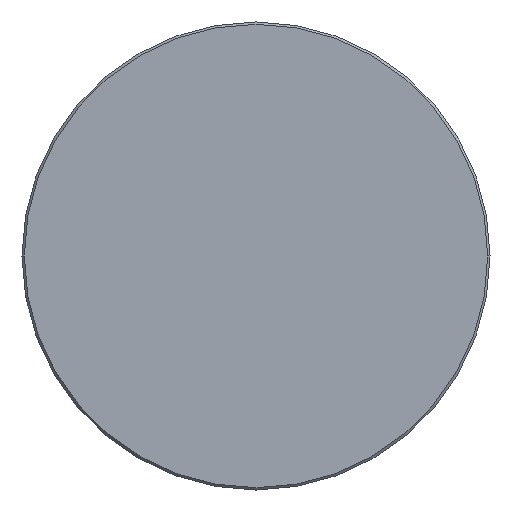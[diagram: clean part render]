
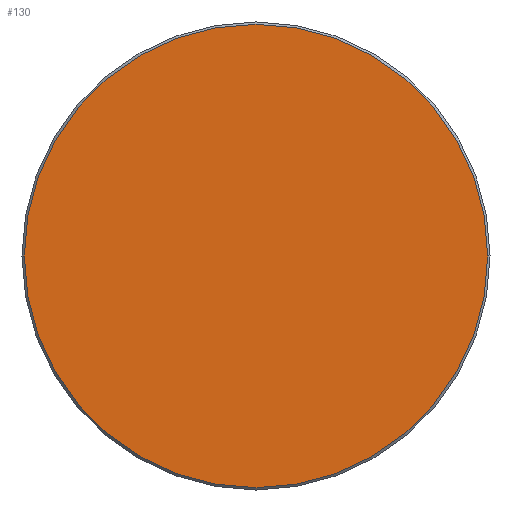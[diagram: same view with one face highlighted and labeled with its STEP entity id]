
A CAD part, left-side view. The second image highlights one B-rep face of the part: STEP entity #130.
In plain terms, the highlighted planar face has unit normal (-1, 0, 0).
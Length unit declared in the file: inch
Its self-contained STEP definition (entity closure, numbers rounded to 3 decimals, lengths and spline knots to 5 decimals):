
#20 = DIRECTION ( 'NONE',  ( 0., -1., 0. ) ) ;
#49 = CARTESIAN_POINT ( 'NONE',  ( 0., 0.40225, 0. ) ) ;
#66 = CARTESIAN_POINT ( 'NONE',  ( 0., -0.40225, 0. ) ) ;
#87 = AXIS2_PLACEMENT_3D ( 'NONE', #120, #97, #188 ) ;
#94 = ORIENTED_EDGE ( 'NONE', *, *, #95, .T. ) ;
#95 = EDGE_CURVE ( 'NONE', #263, #201, #135, .T. ) ;
#97 = DIRECTION ( 'NONE',  ( -1., 0., 0. ) ) ;
#117 = FACE_OUTER_BOUND ( 'NONE', #238, .T. ) ;
#120 = CARTESIAN_POINT ( 'NONE',  ( 0., 0., 0. ) ) ;
#121 = AXIS2_PLACEMENT_3D ( 'NONE', #181, #324, #275 ) ;
#130 = ADVANCED_FACE ( 'NONE', ( #117 ), #155, .T. ) ;
#135 = CIRCLE ( 'NONE', #121, 0.40225 ) ;
#155 = PLANE ( 'NONE',  #87 ) ;
#181 = CARTESIAN_POINT ( 'NONE',  ( 0., 0., 0. ) ) ;
#188 = DIRECTION ( 'NONE',  ( 0., -1., 0. ) ) ;
#190 = CARTESIAN_POINT ( 'NONE',  ( 0., 0., 0. ) ) ;
#201 = VERTEX_POINT ( 'NONE', #66 ) ;
#231 = EDGE_CURVE ( 'NONE', #201, #263, #325, .T. ) ;
#238 = EDGE_LOOP ( 'NONE', ( #94, #377 ) ) ;
#263 = VERTEX_POINT ( 'NONE', #49 ) ;
#275 = DIRECTION ( 'NONE',  ( 0., -1., 0. ) ) ;
#285 = DIRECTION ( 'NONE',  ( -1., 0., 0. ) ) ;
#324 = DIRECTION ( 'NONE',  ( -1., 0., 0. ) ) ;
#325 = CIRCLE ( 'NONE', #362, 0.40225 ) ;
#362 = AXIS2_PLACEMENT_3D ( 'NONE', #190, #285, #20 ) ;
#377 = ORIENTED_EDGE ( 'NONE', *, *, #231, .T. ) ;
